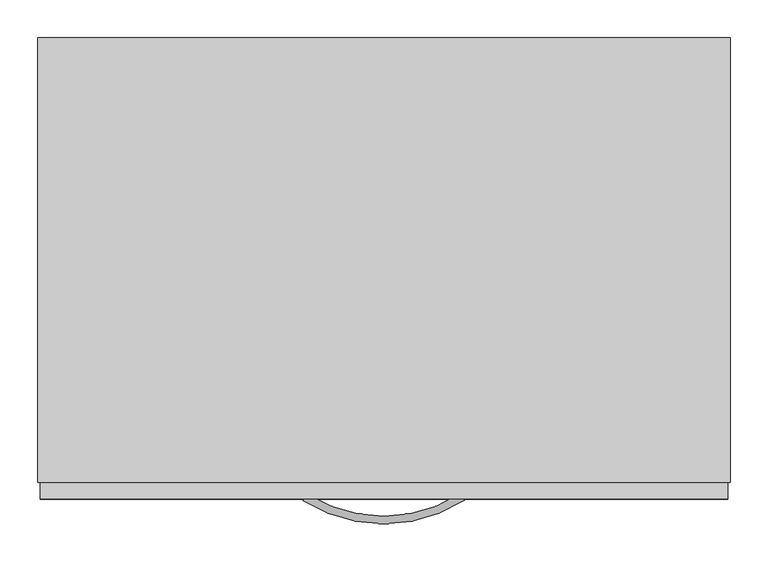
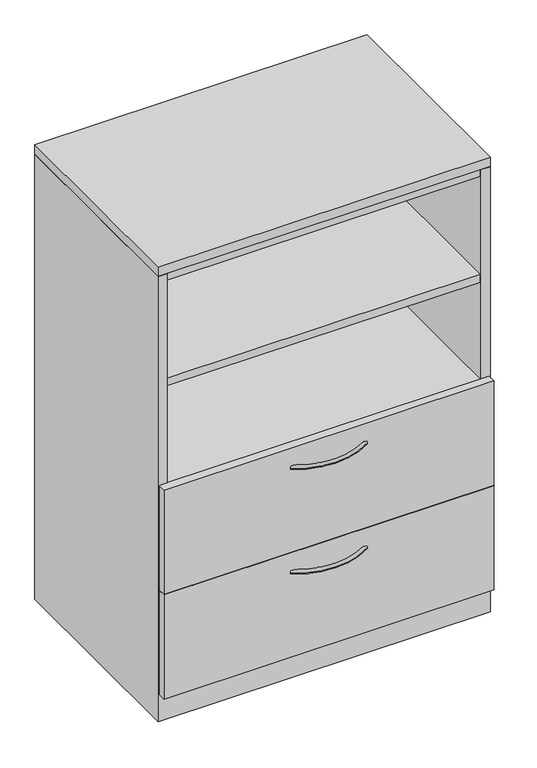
"""IFC4 building model written with IfcOpenShell, lengths in millimetres: furniture geometry, Steelcase - Universal Storage - Cabinet - Combination - Proud Steel : 52H - Open Cabinet/2 Drawers - 24D x 36W."""

import ifcopenshell
import ifcopenshell.guid

model = None  # the IFC model being written
_history = None  # IfcOwnerHistory: only IFC2X3 demands one
_inside = {}  # id of a spatial element -> (the spatial element, [elements in it])
_under = {}  # id of a project, library or spatial element -> (it, [spatial elements below it])
_declared = {}  # id of a project -> (the project, [libraries it declares])
_typed = {}  # id of a type object -> (the type object, [elements of that type])
_made_of = {}  # id of a material, layer set ... -> (it, [elements and type objects made of it])


def new_model(schema):
    """Start an empty IFC model of exactly this schema.

    Asked for "IFC4X3", IfcOpenShell would pick the latest addendum, in which some entities
    have other attributes; the version numbers below select the first issue.
    IFC2X3 requires an IfcOwnerHistory on every rooted entity: one is made here for all.
    """
    global model, _history
    if schema == "IFC4X3":
        model = ifcopenshell.file(schema_version=(4, 3, 0, 0))
    else:
        model = ifcopenshell.file(schema=schema)
    _inside.clear()
    _under.clear()
    _declared.clear()
    _typed.clear()
    _made_of.clear()
    _history = None
    if model.schema == "IFC2X3":
        org = make("IfcOrganization", Name="unknown")
        user = make(
            "IfcPersonAndOrganization",
            ThePerson=make("IfcPerson", FamilyName="unknown"),
            TheOrganization=org,
        )
        app = make(
            "IfcApplication",
            ApplicationDeveloper=org,
            Version="unknown",
            ApplicationFullName="unknown",
            ApplicationIdentifier="unknown",
        )
        _history = make(
            "IfcOwnerHistory",
            OwningUser=user,
            OwningApplication=app,
            ChangeAction="ADDED",
            CreationDate=0,
        )
    return model


def make(cls, **values):
    """One entity of the class cls with the attributes given. An attribute that is None is left unset."""
    return model.create_entity(
        cls, **{name: value for name, value in values.items() if value is not None}
    )


def rooted(cls, **values):
    """An entity with a GlobalId (a new one), such as an element, a storey or a relation."""
    return make(cls, GlobalId=ifcopenshell.guid.new(), OwnerHistory=_history, **values)


def si_unit(unit_type, name, prefix=None):
    """IfcSIUnit, for example si_unit("LENGTHUNIT", "METRE", prefix="MILLI")."""
    return make("IfcSIUnit", UnitType=unit_type, Prefix=prefix, Name=name)


def assignment(units):
    """IfcUnitAssignment: the units of a project."""
    return None if units is None else make("IfcUnitAssignment", Units=units)


def point(xyz):
    """IfcCartesianPoint."""
    return None if xyz is None else make("IfcCartesianPoint", Coordinates=xyz)


def direction(xyz):
    """IfcDirection."""
    return None if xyz is None else make("IfcDirection", DirectionRatios=xyz)


def frame(location, z_axis=None, x_axis=None):
    """IfcAxis2Placement3D, a coordinate frame: its origin and axes. An axis left out is left unset."""
    return make(
        "IfcAxis2Placement3D",
        Location=point(location),
        Axis=direction(z_axis),
        RefDirection=direction(x_axis),
    )


def origin():
    """The frame at (0, 0, 0) with its axes left unset."""
    return frame((0.0, 0.0, 0.0))


def place(relative_to, where):
    """IfcLocalPlacement: puts the frame where relative to a parent placement (None: the world)."""
    return make(
        "IfcLocalPlacement", PlacementRelTo=relative_to, RelativePlacement=where
    )


def context(
    kind, dimensions, precision=None, world=None, true_north=None, identifier=None
):
    """IfcGeometricRepresentationContext, for example the 3D "Model" context."""
    return make(
        "IfcGeometricRepresentationContext",
        ContextIdentifier=identifier,
        ContextType=kind,
        CoordinateSpaceDimension=dimensions,
        Precision=precision,
        WorldCoordinateSystem=world,
        TrueNorth=true_north,
    )


def project(units=None, contexts=None):
    """IfcProject with its units and contexts."""
    return rooted(
        "IfcProject",
        Name="project",
        RepresentationContexts=contexts,
        UnitsInContext=assignment(units),
    )


def spatial(cls, under=None, at=None, **own):
    """A site, building, storey or space (cls), placed at a placement, below another one or the project."""
    s = rooted(cls, ObjectPlacement=at, **own)
    if under is not None:
        _under.setdefault(under.id(), (under, []))[1].append(s)
    return s


def polyline(points):
    """IfcPolyline through the points."""
    return make("IfcPolyline", Points=[point(p) for p in points])


def circle_curve(where, radius):
    """IfcCircle in the frame where."""
    return make("IfcCircle", Position=where, Radius=radius)


def ellipse_curve(where, semi_axis1, semi_axis2):
    """IfcEllipse in the frame where."""
    return make(
        "IfcEllipse", Position=where, SemiAxis1=semi_axis1, SemiAxis2=semi_axis2
    )


def trimmed(basis, trim1, trim2, sense, master):
    """IfcTrimmedCurve: the piece of a basis curve between two trims."""
    return make(
        "IfcTrimmedCurve",
        BasisCurve=basis,
        Trim1=trim1,
        Trim2=trim2,
        SenseAgreement=sense,
        MasterRepresentation=master,
    )


def outline(outer, holes=None, kind="AREA"):
    """IfcArbitraryClosedProfileDef: a profile drawn as a closed curve; with holes, ...WithVoids."""
    if holes is None:
        return make("IfcArbitraryClosedProfileDef", ProfileType=kind, OuterCurve=outer)
    return make(
        "IfcArbitraryProfileDefWithVoids",
        ProfileType=kind,
        OuterCurve=outer,
        InnerCurves=holes,
    )


def extrude(swept, where, along, depth):
    """IfcExtrudedAreaSolid: the profile swept, set in the frame where, extruded along a direction by depth."""
    return make(
        "IfcExtrudedAreaSolid",
        SweptArea=swept,
        Position=where,
        ExtrudedDirection=direction(along),
        Depth=depth,
    )


def faces_of(points, faces, orient=None, outer=None):
    """IfcFace entities. A face is a list of loops; a loop is a list of indices into points, from 0.

    orient and outer hold one flag for each loop. By default every Orientation is true, the
    first loop of a face is its IfcFaceOuterBound and the others are IfcFaceBound.
    """
    made = []
    for i, loops in enumerate(faces):
        bounds = []
        for j, loop in enumerate(loops):
            is_outer = j == 0 if outer is None else outer[i][j]
            bounds.append(
                make(
                    "IfcFaceOuterBound" if is_outer else "IfcFaceBound",
                    Bound=make("IfcPolyLoop", Polygon=[points[k] for k in loop]),
                    Orientation=True if orient is None else orient[i][j],
                )
            )
        made.append(make("IfcFace", Bounds=bounds))
    return made


def faceted_brep(points, faces, orient=None, outer=None, voids=None):
    """IfcFacetedBrep: a solid bounded by flat faces; with voids (closed shells), ...WithVoids."""
    shared = [point(p) for p in points]
    hull = make("IfcClosedShell", CfsFaces=faces_of(shared, faces, orient, outer))
    if voids is None:
        return make("IfcFacetedBrep", Outer=hull)
    return make(
        "IfcFacetedBrepWithVoids",
        Outer=hull,
        Voids=[
            make(cls, CfsFaces=faces_of(shared, fs, o, b)) for cls, fs, o, b in voids
        ],
    )


def shape(context_of_items, identifier, shape_type, items):
    """IfcShapeRepresentation: the items that make up one representation, for example the "Body"."""
    return make(
        "IfcShapeRepresentation",
        ContextOfItems=context_of_items,
        RepresentationIdentifier=identifier,
        RepresentationType=shape_type,
        Items=items,
    )


def source(mapping_origin, context_of_items, identifier, shape_type, items):
    """IfcRepresentationMap: a shape defined once, which mapped items show again and again."""
    return make(
        "IfcRepresentationMap",
        MappingOrigin=mapping_origin,
        MappedRepresentation=shape(context_of_items, identifier, shape_type, items),
    )


def transform(
    local_origin,
    x_axis=None,
    y_axis=None,
    z_axis=None,
    scale=None,
    scale2=None,
    scale3=None,
    uniform=True,
):
    """IfcCartesianTransformationOperator3D, or its non-uniform kind. x_axis, y_axis, z_axis: its Axis1, 2, 3."""
    if uniform:
        return make(
            "IfcCartesianTransformationOperator3D",
            Axis1=direction(x_axis),
            Axis2=direction(y_axis),
            LocalOrigin=point(local_origin),
            Scale=scale,
            Axis3=direction(z_axis),
        )
    return make(
        "IfcCartesianTransformationOperator3DnonUniform",
        Axis1=direction(x_axis),
        Axis2=direction(y_axis),
        LocalOrigin=point(local_origin),
        Scale=scale,
        Axis3=direction(z_axis),
        Scale2=scale2,
        Scale3=scale3,
    )


def mapped(mapping_source, mapping_target):
    """IfcMappedItem: shows the shape of a source again, moved by a transform."""
    return make(
        "IfcMappedItem", MappingSource=mapping_source, MappingTarget=mapping_target
    )


def made_of(thing, what):
    """Note that an element or type object is made of a material, layer set ...; save() writes the relation."""
    if what is not None:
        _made_of.setdefault(what.id(), (what, []))[1].append(thing)
    return thing


def element(
    cls,
    number,
    at=None,
    inside=None,
    cuts=None,
    type_object=None,
    material=None,
    context=None,
    identifier="Body",
    shape_type=None,
    held_by="IfcProductDefinitionShape",
    body=None,
    shapes=None,
    **own,
):
    """One element of the class cls, such as IfcWall. Its Tag is "e" and its number.

    at: its placement. inside: the storey or other place that contains it. cuts: it is an
    opening in that element (IfcRelVoidsElement). A single representation is given by context,
    identifier, shape_type and body (its items); several are given by shapes. held_by: the class
    of the entity that holds the representations. save() writes the other relations.
    """
    e = rooted(cls, Tag="e%d" % number, ObjectPlacement=at, **own)
    if body is not None:
        shapes = [shape(context, identifier, shape_type, body)]
    if shapes is not None:
        e.Representation = make(held_by, Representations=shapes)
    if inside is not None:
        _inside.setdefault(inside.id(), (inside, []))[1].append(e)
    if cuts is not None:
        rooted(
            "IfcRelVoidsElement", RelatingBuildingElement=cuts, RelatedOpeningElement=e
        )
    if type_object is not None:
        _typed.setdefault(type_object.id(), (type_object, []))[1].append(e)
    return made_of(e, material)


def aggregate(whole, parts):
    """IfcRelAggregates: a whole, such as a stair, and the parts it consists of."""
    return rooted("IfcRelAggregates", RelatingObject=whole, RelatedObjects=parts)


def save(model, path):
    """Write the relations noted so far, then the file.

    IfcRelAggregates (storeys below a building ...), IfcRelContainedInSpatialStructure (elements
    in a storey), IfcRelDefinesByType, IfcRelAssociatesMaterial and IfcRelDeclares: one each for
    every whole, place, type object, material and project.
    """
    for whole, parts in _under.values():
        aggregate(whole, parts)
    for where, things in _inside.values():
        rooted(
            "IfcRelContainedInSpatialStructure",
            RelatedElements=things,
            RelatingStructure=where,
        )
    for kind, things in _typed.values():
        rooted("IfcRelDefinesByType", RelatedObjects=things, RelatingType=kind)
    for what, things in _made_of.values():
        rooted("IfcRelAssociatesMaterial", RelatedObjects=things, RelatingMaterial=what)
    for by, libraries in _declared.values():
        rooted("IfcRelDeclares", RelatingContext=by, RelatedDefinitions=libraries)
    model.write(path)


def plane_surface(at):
    """IfcPlane: the flat surface through the origin of the frame at, square to its z axis."""
    return make("IfcPlane", Position=at)


def revolved_surface(curve, axis_point, axis_direction):
    """IfcSurfaceOfRevolution: the curve turned about the line through axis_point along axis_direction."""
    return make(
        "IfcSurfaceOfRevolution",
        SweptCurve=make("IfcArbitraryOpenProfileDef", ProfileType="CURVE", Curve=curve),
        AxisPosition=make("IfcAxis1Placement", Location=point(axis_point), Axis=direction(axis_direction)),
    )


def advanced_brep(points, edges, surfaces, faces):
    """IfcAdvancedBrep: a solid bounded by faces that lie on surfaces and meet in shared edges.

    An edge is (start, end): straight between two places in points (the first is 0);
    or (start, end, curve); or (start, end, curve, False) where it runs against its curve.
    A face is (place in surfaces, loops), or (place, loops, False) where it looks against
    its surface's normal. A loop lists edges by number (the first is 1), with a minus sign
    where the edge is run from its end to its start. The first loop is the outer one.
    """
    corners = [point(p) for p in points]
    vertices = [make("IfcVertexPoint", VertexGeometry=c) for c in corners]
    made = []
    for start, end, *more in edges:
        made.append(
            make(
                "IfcEdgeCurve",
                EdgeStart=vertices[start],
                EdgeEnd=vertices[end],
                EdgeGeometry=more[0] if more else make("IfcPolyline", Points=[corners[start], corners[end]]),
                SameSense=more[1] if len(more) > 1 else True,
            )
        )
    hull = []
    for where, loops, *sense in faces:
        bounds = []
        for j, loop in enumerate(loops):
            ring = [make("IfcOrientedEdge", EdgeElement=made[abs(k) - 1], Orientation=k > 0) for k in loop]
            bounds.append(
                make(
                    "IfcFaceOuterBound" if j == 0 else "IfcFaceBound",
                    Bound=make("IfcEdgeLoop", EdgeList=ring),
                    Orientation=True,
                )
            )
        hull.append(make("IfcAdvancedFace", Bounds=bounds, FaceSurface=surfaces[where], SameSense=sense[0] if sense else True))
    return make("IfcAdvancedBrep", Outer=make("IfcClosedShell", CfsFaces=hull))


def furniture_ab3db004(model_context):
    return source(origin(), model_context, "Body", "SolidModel", [
        extrude(outline(polyline([(889.0000242, 104.6479992), (889.0000242, -454.0250121), (25.4000008, -454.0250121), (25.4000008, 104.6479992), (889.0000242, 104.6479992)])), frame((0.0, 0.0, 660.4000242), z_axis=(0.0, 0.0, 1.0), x_axis=(1.0, 0.0, 0.0)), (0.0, 0.0, 1.0), 22.2249516),
        extrude(outline(polyline([(889.0000242, 104.6479992), (889.0000242, -454.0250121), (25.4000008, -454.0250121), (25.4000008, 104.6479992), (889.0000242, 104.6479992)])), frame((0.0, 0.0, 965.2000242), z_axis=(0.0, 0.0, 1.0), x_axis=(1.0, 0.0, 0.0)), (0.0, 0.0, 1.0), 22.2249516),
        extrude(outline(polyline([(889.0000242, 104.6479992), (889.0000242, -454.0250121), (25.4000008, -454.0250121), (25.4000008, 104.6479992), (889.0000242, 104.6479992)])), frame((0.0, 0.0, 1273.1750484), z_axis=(0.0, 0.0, 1.0), x_axis=(1.0, 0.0, 0.0)), (0.0, 0.0, 1.0), 22.2249516),
        advanced_brep(
        [(350.6245932, -481.5705994, 323.56425), (356.0977519, -473.0108019, 323.56425), (562.9315136, -481.1337636, 323.56425), (557.4231767, -472.5965612, 323.56425)],
        [
            (0, 1, circle_curve(frame((353.3611726, -477.2907007, 323.56425), z_axis=(-0.8424997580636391, 0.5386967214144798, 0.0), x_axis=(0.5386967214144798, 0.8424997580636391, 0.0)), 5.08)),
            (1, 0, circle_curve(frame((353.3611726, -477.2907007, 323.56425), z_axis=(-0.8424997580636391, 0.5386967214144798, 0.0), x_axis=(0.5386967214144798, 0.8424997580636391, 0.0)), 5.08)),
            (2, 3, circle_curve(frame((560.1773452, -476.8651624, 323.56425), z_axis=(0.8402758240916, 0.5421591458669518, 0.0), x_axis=(-0.5421591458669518, 0.8402758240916, 0.0)), 5.08)),
            (3, 2, circle_curve(frame((560.1773452, -476.8651624, 323.56425), z_axis=(0.8402758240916, 0.5421591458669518, 0.0), x_axis=(-0.5421591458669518, 0.8402758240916, 0.0)), 5.08)),
            (3, 1, circle_curve(frame((456.4380004, -316.0827352, 323.56425), z_axis=(0.0, 0.0, -1.0), x_axis=(-0.5386967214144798, -0.8424997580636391, 0.0)), 186.2648211)),
            (0, 2, circle_curve(frame((456.4380004, -316.0827352, 323.56425), z_axis=(0.0, 0.0, 1.0), x_axis=(-0.5386967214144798, -0.8424997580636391, 0.0)), 196.4248211)),
        ],
        [
            plane_surface(frame((353.7794521, -476.6365286, 324.358), z_axis=(-0.8424997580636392, 0.5386967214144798, 0.0), x_axis=(0.0, 0.0, 1.0))),
            plane_surface(frame((559.7563772, -476.2127171, 324.358), z_axis=(0.8402758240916, 0.5421591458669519, 0.0), x_axis=(0.0, 0.0, 1.0))),
            revolved_surface(trimmed(ellipse_curve(frame((353.3611726, -477.2907007, 323.56425), z_axis=(-0.8424997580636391, 0.5386967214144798, 0.0), x_axis=(0.5386967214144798, 0.8424997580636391, 0.0)), 5.08, 5.08), [point((350.6245932, -481.5705994, 323.56425))], [point((356.0977519, -473.0108019, 323.56425))], True, "CARTESIAN"), (456.4380004, -316.0827352, 324.358), (0.0, 0.0, 1.0)),
            revolved_surface(trimmed(ellipse_curve(frame((353.3611726, -477.2907007, 323.56425), z_axis=(-0.8424997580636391, 0.5386967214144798, 0.0), x_axis=(0.5386967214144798, 0.8424997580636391, 0.0)), 5.08, 5.08), [point((356.0977519, -473.0108019, 323.56425))], [point((350.6245932, -481.5705994, 323.56425))], True, "CARTESIAN"), (456.4380004, -316.0827352, 324.358), (0.0, 0.0, 1.0)),
        ],
        [
            (0, [[1, 2]]),
            (1, [[3, 4]]),
            (2, [[5, -1, 6, -4]]),
            (3, [[-6, -2, -5, -3]]),
        ],
    ),
        advanced_brep(
        [(350.6245932, -481.5705994, 627.85625), (356.0977519, -473.0108019, 627.85625), (562.9315136, -481.1337636, 627.85625), (557.4231767, -472.5965612, 627.85625)],
        [
            (0, 1, circle_curve(frame((353.3611726, -477.2907007, 627.85625), z_axis=(-0.8424997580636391, 0.5386967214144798, 0.0), x_axis=(0.5386967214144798, 0.8424997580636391, 0.0)), 5.08)),
            (1, 0, circle_curve(frame((353.3611726, -477.2907007, 627.85625), z_axis=(-0.8424997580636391, 0.5386967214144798, 0.0), x_axis=(0.5386967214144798, 0.8424997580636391, 0.0)), 5.08)),
            (2, 3, circle_curve(frame((560.1773452, -476.8651624, 627.85625), z_axis=(0.8402758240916, 0.5421591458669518, 0.0), x_axis=(-0.5421591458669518, 0.8402758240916, 0.0)), 5.08)),
            (3, 2, circle_curve(frame((560.1773452, -476.8651624, 627.85625), z_axis=(0.8402758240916, 0.5421591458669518, 0.0), x_axis=(-0.5421591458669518, 0.8402758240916, 0.0)), 5.08)),
            (3, 1, circle_curve(frame((456.4380004, -316.0827352, 627.85625), z_axis=(0.0, 0.0, -1.0), x_axis=(-0.5386967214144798, -0.8424997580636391, 0.0)), 186.2648211)),
            (0, 2, circle_curve(frame((456.4380004, -316.0827352, 627.85625), z_axis=(0.0, 0.0, 1.0), x_axis=(-0.5386967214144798, -0.8424997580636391, 0.0)), 196.4248211)),
        ],
        [
            plane_surface(frame((353.7794521, -476.6365286, 628.65), z_axis=(-0.8424997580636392, 0.5386967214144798, 0.0), x_axis=(0.0, 0.0, 1.0))),
            plane_surface(frame((559.7563772, -476.2127171, 628.65), z_axis=(0.8402758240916, 0.5421591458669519, 0.0), x_axis=(0.0, 0.0, 1.0))),
            revolved_surface(trimmed(ellipse_curve(frame((353.3611726, -477.2907007, 627.85625), z_axis=(-0.8424997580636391, 0.5386967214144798, 0.0), x_axis=(0.5386967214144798, 0.8424997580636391, 0.0)), 5.08, 5.08), [point((350.6245932, -481.5705994, 627.85625))], [point((356.0977519, -473.0108019, 627.85625))], True, "CARTESIAN"), (456.4380004, -316.0827352, 628.65), (0.0, 0.0, 1.0)),
            revolved_surface(trimmed(ellipse_curve(frame((353.3611726, -477.2907007, 627.85625), z_axis=(-0.8424997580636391, 0.5386967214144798, 0.0), x_axis=(0.5386967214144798, 0.8424997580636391, 0.0)), 5.08, 5.08), [point((356.0977519, -473.0108019, 627.85625))], [point((350.6245932, -481.5705994, 627.85625))], True, "CARTESIAN"), (456.4380004, -316.0827352, 628.65), (0.0, 0.0, 1.0)),
        ],
        [
            (0, [[1, 2]]),
            (1, [[3, 4]]),
            (2, [[5, -1, 6, -4]]),
            (3, [[-6, -2, -5, -3]]),
        ],
    ),
        faceted_brep([(25.4000008, -457.3261219, 76.2), (889.0000242, -457.3261219, 76.2), (889.0000242, 104.6479992, 76.2), (25.4000008, 104.6479992, 76.2), (914.4, 130.048, 0.0), (914.4, -457.3261219, 0.0), (0.0, -457.3261219, 0.0), (0.0, 130.048, 0.0), (0.0, 130.048, 1293.876), (914.4, 130.048, 1293.876), (0.0, -457.3261219, 1293.876), (914.4, -457.3261219, 1293.876), (889.0000242, -457.3261219, 1293.876), (25.4000008, -457.3261219, 1293.876), (889.0000242, 104.6479992, 1293.876), (25.4000008, 104.6479992, 1293.876)], [[[0, 1, 2, 3]], [[4, 5, 6, 7]], [[4, 7, 8, 9]], [[8, 7, 6, 10]], [[10, 6, 5, 11, 12, 1, 0, 13]], [[11, 5, 4, 9]], [[14, 12, 11, 9, 8, 10, 13, 15]], [[12, 14, 2, 1]], [[15, 13, 0, 3]], [[14, 15, 3, 2]]]),
        extrude(outline(polyline([(911.2225413, -479.552), (3.1725353, -479.552), (3.1725353, -457.3261219), (911.2225413, -457.3261219), (911.2225413, -479.552)])), frame((0.0, 0.0, 77.724), z_axis=(0.0, 0.0, 1.0), x_axis=(1.0, 0.0, 0.0)), (0.0, 0.0, 1.0), 303.276),
        extrude(outline(polyline([(911.2225413, -479.552), (3.1725353, -479.552), (3.1725353, -457.3261219), (911.2225413, -457.3261219), (911.2225413, -479.552)])), frame((0.0, 0.0, 382.524), z_axis=(0.0, 0.0, 1.0), x_axis=(1.0, 0.0, 0.0)), (0.0, 0.0, 1.0), 303.276),
        extrude(outline(polyline([(914.4, 130.048), (914.4, -457.3261219), (0.0, -457.3261219), (0.0, 130.048), (914.4, 130.048)])), frame((0.0, 0.0, 1295.3999516), z_axis=(0.0, 0.0, 1.0), x_axis=(1.0, 0.0, 0.0)), (0.0, 0.0, 1.0), 25.4000484),
    ])


if __name__ == "__main__":
    model = new_model("IFC4")
    model_context = context("Model", 3, world=origin())
    ifc_project = project(units=[si_unit("LENGTHUNIT", "METRE", prefix="MILLI")], contexts=[model_context])
    site = spatial("IfcSite", under=ifc_project)
    building = spatial("IfcBuilding", under=site)
    placement = place(None, origin())
    furniture_shape = furniture_ab3db004(model_context)
    element("IfcFurniture", 1, ObjectType="Steelcase - Universal Storage - Cabinet - Combination - Proud Steel : 52H - Open Cabinet/2 Drawers - 24D x 36W", at=placement, inside=building, context=model_context, shape_type="MappedRepresentation", body=[
        mapped(furniture_shape, transform((0.0, 0.0, 0.0), x_axis=(1.0, 0.0, 0.0), y_axis=(0.0, 1.0, 0.0), z_axis=(0.0, 0.0, 1.0))),
    ])
    save(model, "model.ifc")
